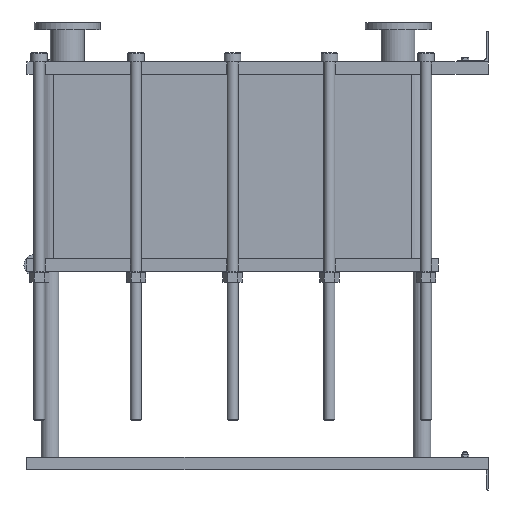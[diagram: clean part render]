
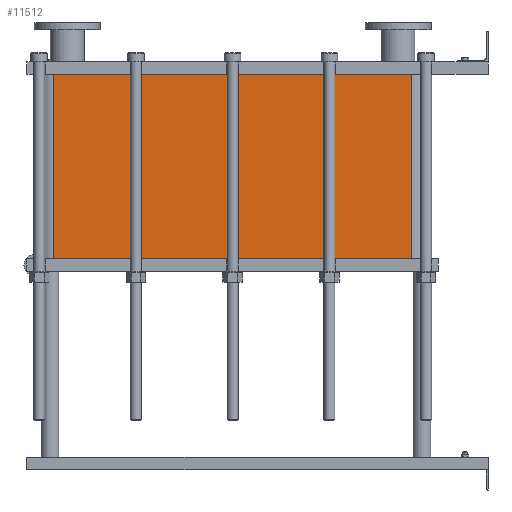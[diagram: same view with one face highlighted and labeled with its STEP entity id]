
A CAD part, left-side view. The second image highlights one B-rep face of the part: STEP entity #11512.
In plain terms, the highlighted planar face has unit normal (-1, 0, 0).
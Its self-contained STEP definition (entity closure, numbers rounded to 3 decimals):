
#1129=LINE('',#23232,#2102);
#1130=LINE('',#23236,#2103);
#1131=LINE('',#23238,#2104);
#1132=LINE('',#23239,#2105);
#2102=VECTOR('',#15887,10.);
#2103=VECTOR('',#15892,10.);
#2104=VECTOR('',#15893,10.);
#2105=VECTOR('',#15894,10.);
#3267=FACE_OUTER_BOUND('',#4093,.T.);
#4093=EDGE_LOOP('',(#10103,#10104,#10105,#10106));
#5642=VERTEX_POINT('',#23229);
#5643=VERTEX_POINT('',#23231);
#5644=VERTEX_POINT('',#23235);
#5645=VERTEX_POINT('',#23237);
#7159=EDGE_CURVE('',#5643,#5642,#1129,.T.);
#7161=EDGE_CURVE('',#5642,#5644,#1130,.T.);
#7162=EDGE_CURVE('',#5645,#5644,#1131,.T.);
#7163=EDGE_CURVE('',#5645,#5643,#1132,.T.);
#10103=ORIENTED_EDGE('',*,*,#7161,.T.);
#10104=ORIENTED_EDGE('',*,*,#7162,.F.);
#10105=ORIENTED_EDGE('',*,*,#7163,.T.);
#10106=ORIENTED_EDGE('',*,*,#7159,.T.);
#10857=PLANE('',#12751);
#11512=ADVANCED_FACE('',(#3267),#10857,.T.);
#12751=AXIS2_PLACEMENT_3D('',#23234,#15890,#15891);
#15887=DIRECTION('',(0.,0.,-1.));
#15890=DIRECTION('center_axis',(-1.,0.,0.));
#15891=DIRECTION('ref_axis',(0.,1.,0.));
#15892=DIRECTION('',(0.,-1.,0.));
#15893=DIRECTION('',(0.,0.,-1.));
#15894=DIRECTION('',(0.,1.,0.));
#23229=CARTESIAN_POINT('',(-200.,1414.,-600.3));
#23231=CARTESIAN_POINT('',(-200.,1414.,0.));
#23232=CARTESIAN_POINT('',(-200.,1414.,0.));
#23234=CARTESIAN_POINT('Origin',(-200.,248.,0.));
#23235=CARTESIAN_POINT('',(-200.,248.,-600.3));
#23236=CARTESIAN_POINT('',(-200.,539.5,-600.3));
#23237=CARTESIAN_POINT('',(-200.,248.,0.));
#23238=CARTESIAN_POINT('',(-200.,248.,0.));
#23239=CARTESIAN_POINT('',(-200.,248.,0.));
